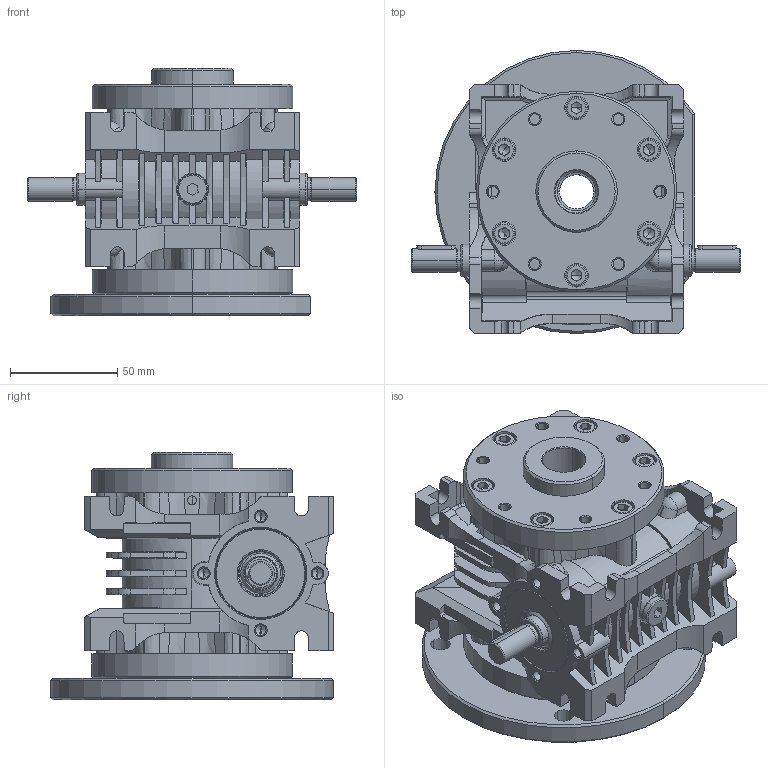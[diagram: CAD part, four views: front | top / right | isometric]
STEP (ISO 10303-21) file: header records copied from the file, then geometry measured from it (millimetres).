
FILE_DESCRIPTION (( 'STEP AP203' ), '1' );
FILE_NAME ('MRP-32_WBS2_SP_KM-1.STEP', '2023-10-17T11:27:33', ( '' ), ( '' ), 'SwSTEP 2.0', 'SolidWorks 2022', '' );
FILE_SCHEMA (( 'CONFIG_CONTROL_DESIGN' ));
Products named in the file (1): MRP-32_WBS2_SP_KM-1
Bounding box: 153.5 x 132 x 115.5 mm (x, y, z)
Volume: 739851.3 mm3; surface area: 170229.6 mm2
Topology: 1 solids, 51 shells, 2630 faces, 6345 edges, 3832 vertices
Faces by surface type: plane 823, cylinder 735, cone 617, torus 326, bspline 102, sphere 27
Entity records: 78746 total; most frequent: CARTESIAN_POINT 18169, DIRECTION 13112, ORIENTED_EDGE 12538, EDGE_CURVE 6269, AXIS2_PLACEMENT_3D 5127, VERTEX_POINT 3832, LINE 2858, VECTOR 2858
